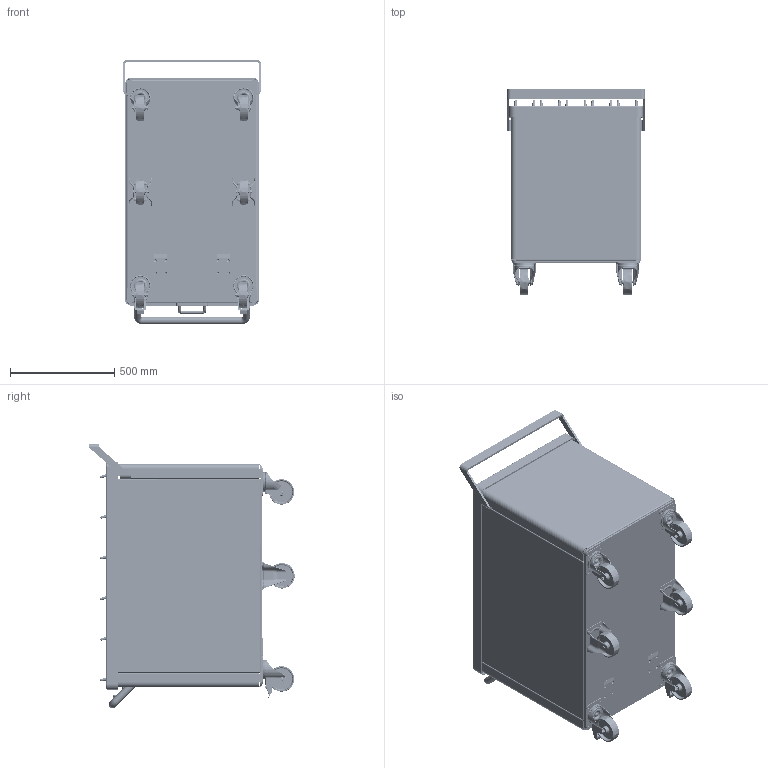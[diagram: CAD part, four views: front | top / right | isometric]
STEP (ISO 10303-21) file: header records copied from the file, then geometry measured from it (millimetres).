
FILE_DESCRIPTION (( 'STEP AP203' ), '1' );
FILE_NAME ('66030.STEP', '2018-05-15T05:57:03', ( '' ), ( '' ), 'SwSTEP 2.0', 'SolidWorks 2015', '' );
FILE_SCHEMA (( 'CONFIG_CONTROL_DESIGN' ));
Products named in the file (1): 66030
Bounding box: 660 x 987.78 x 1268.59 mm (x, y, z)
Volume: 34266689.6 mm3; surface area: 11738631.4 mm2
Topology: 133 solids, 133 shells, 5293 faces, 12232 edges, 7402 vertices
Faces by surface type: plane 2033, cylinder 1614, cone 860, bspline 462, torus 322, sphere 2
Entity records: 189753 total; most frequent: CARTESIAN_POINT 70694, DIRECTION 25366, ORIENTED_EDGE 24196, EDGE_CURVE 12098, AXIS2_PLACEMENT_3D 10012, VERTEX_POINT 7402, EDGE_LOOP 6100, LINE 5342
